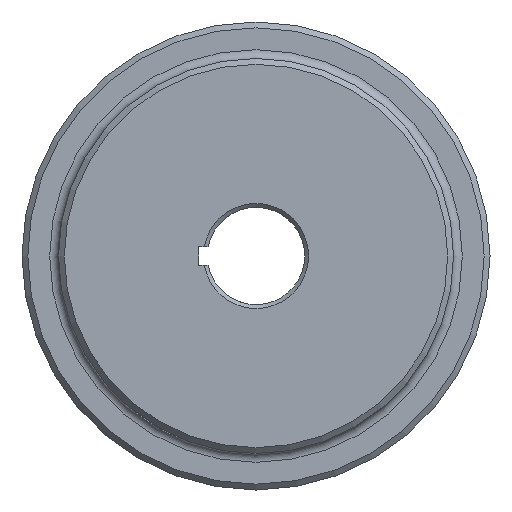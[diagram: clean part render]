
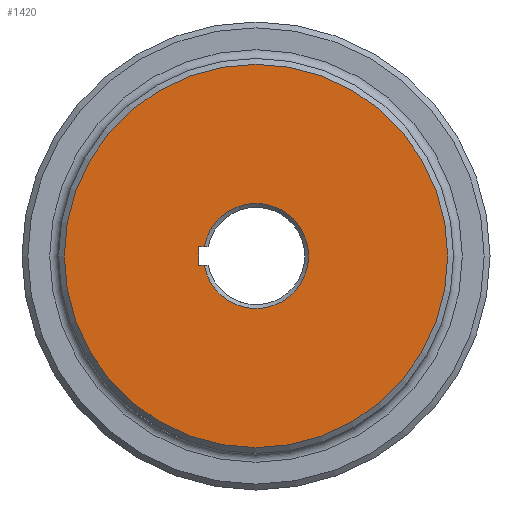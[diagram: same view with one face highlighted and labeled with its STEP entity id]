
A CAD part, left-side view. The second image highlights one B-rep face of the part: STEP entity #1420.
In plain terms, the highlighted planar face has unit normal (-1, 0, 0).
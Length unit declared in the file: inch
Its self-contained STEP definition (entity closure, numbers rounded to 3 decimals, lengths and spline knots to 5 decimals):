
#117 = CARTESIAN_POINT ( 'NONE',  ( 0., 0., 0. ) ) ;
#119 = CARTESIAN_POINT ( 'NONE',  ( 0., 0., -0.0935 ) ) ;
#124 = VECTOR ( 'NONE', #1218, 39.37008 ) ;
#263 = EDGE_LOOP ( 'NONE', ( #1070 ) ) ;
#311 = DIRECTION ( 'NONE',  ( 1., 0., 0. ) ) ;
#448 = VECTOR ( 'NONE', #700, 39.37008 ) ;
#473 = LINE ( 'NONE', #2520, #583 ) ;
#487 = ORIENTED_EDGE ( 'NONE', *, *, #2700, .F. ) ;
#501 = LINE ( 'NONE', #1132, #448 ) ;
#567 = CARTESIAN_POINT ( 'NONE',  ( 0., 0.532, -0.0935 ) ) ;
#583 = VECTOR ( 'NONE', #809, 39.37008 ) ;
#700 = DIRECTION ( 'NONE',  ( 0., 1., 0. ) ) ;
#809 = DIRECTION ( 'NONE',  ( 0., 0., -1. ) ) ;
#838 = CARTESIAN_POINT ( 'NONE',  ( 0., 0.59085, -0.0935 ) ) ;
#869 = CARTESIAN_POINT ( 'NONE',  ( 0., 0., 0. ) ) ;
#893 = DIRECTION ( 'NONE',  ( -1., 0., 0. ) ) ;
#1070 = ORIENTED_EDGE ( 'NONE', *, *, #2240, .T. ) ;
#1132 = CARTESIAN_POINT ( 'NONE',  ( 0., 0., 0.0935 ) ) ;
#1182 = EDGE_CURVE ( 'NONE', #2625, #1884, #501, .T. ) ;
#1189 = CARTESIAN_POINT ( 'NONE',  ( 0., 0.532, 0.0935 ) ) ;
#1218 = DIRECTION ( 'NONE',  ( 0., -1., 0. ) ) ;
#1229 = VERTEX_POINT ( 'NONE', #1283 ) ;
#1264 = PLANE ( 'NONE',  #2824 ) ;
#1266 = LINE ( 'NONE', #119, #124 ) ;
#1283 = CARTESIAN_POINT ( 'NONE',  ( 0., 0., -1.97 ) ) ;
#1297 = AXIS2_PLACEMENT_3D ( 'NONE', #869, #1836, #2118 ) ;
#1420 = ADVANCED_FACE ( 'NONE', ( #1807, #1566 ), #1264, .F. ) ;
#1434 = DIRECTION ( 'NONE',  ( 0., 0., -1. ) ) ;
#1508 = ORIENTED_EDGE ( 'NONE', *, *, #2347, .F. ) ;
#1566 = FACE_BOUND ( 'NONE', #1633, .T. ) ;
#1633 = EDGE_LOOP ( 'NONE', ( #2031, #2243, #1508, #487 ) ) ;
#1807 = FACE_OUTER_BOUND ( 'NONE', #263, .T. ) ;
#1836 = DIRECTION ( 'NONE',  ( 1., 0., 0. ) ) ;
#1884 = VERTEX_POINT ( 'NONE', #2600 ) ;
#1894 = CIRCLE ( 'NONE', #2152, 1.97 ) ;
#1896 = DIRECTION ( 'NONE',  ( 0., 0., -1. ) ) ;
#1916 = EDGE_CURVE ( 'NONE', #2625, #2719, #2791, .T. ) ;
#2031 = ORIENTED_EDGE ( 'NONE', *, *, #1182, .F. ) ;
#2118 = DIRECTION ( 'NONE',  ( 0., 0., -1. ) ) ;
#2130 = CARTESIAN_POINT ( 'NONE',  ( 0., 0., 0. ) ) ;
#2152 = AXIS2_PLACEMENT_3D ( 'NONE', #2130, #893, #1434 ) ;
#2205 = VERTEX_POINT ( 'NONE', #838 ) ;
#2240 = EDGE_CURVE ( 'NONE', #1229, #1229, #1894, .T. ) ;
#2243 = ORIENTED_EDGE ( 'NONE', *, *, #1916, .T. ) ;
#2347 = EDGE_CURVE ( 'NONE', #2205, #2719, #1266, .T. ) ;
#2520 = CARTESIAN_POINT ( 'NONE',  ( 0., 0.59085, -0.0935 ) ) ;
#2600 = CARTESIAN_POINT ( 'NONE',  ( 0., 0.59085, 0.0935 ) ) ;
#2625 = VERTEX_POINT ( 'NONE', #1189 ) ;
#2700 = EDGE_CURVE ( 'NONE', #1884, #2205, #473, .T. ) ;
#2719 = VERTEX_POINT ( 'NONE', #567 ) ;
#2791 = CIRCLE ( 'NONE', #1297, 0.54015 ) ;
#2824 = AXIS2_PLACEMENT_3D ( 'NONE', #117, #311, #1896 ) ;
